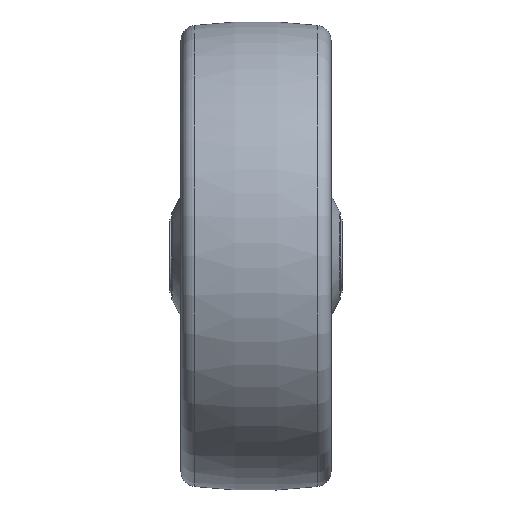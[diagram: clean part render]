
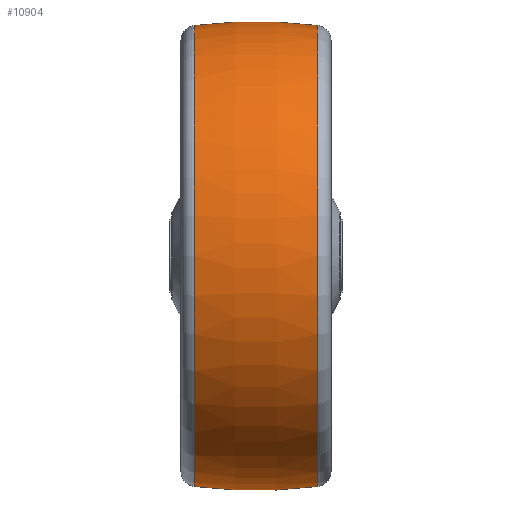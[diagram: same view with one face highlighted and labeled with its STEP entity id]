
A CAD part, top view. The second image highlights one B-rep face of the part: STEP entity #10904.
In plain terms, the highlighted toroidal (fillet/blend) face has major radius 67.5 mm and minor radius 130 mm.
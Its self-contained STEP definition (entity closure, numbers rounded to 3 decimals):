
#883 = EDGE_CURVE ( 'NONE', #20929, #13208, #10360, .T. ) ;
#1847 = DIRECTION ( 'NONE',  ( -1., 0., 0. ) ) ;
#3524 = CARTESIAN_POINT ( 'NONE',  ( 16.508, 0., 0. ) ) ;
#3607 = CARTESIAN_POINT ( 'NONE',  ( 16.508, -61.448, 0. ) ) ;
#3689 = CARTESIAN_POINT ( 'NONE',  ( 0., 0., 0. ) ) ;
#4414 = EDGE_CURVE ( 'NONE', #21205, #6673, #20030, .T. ) ;
#5148 = DIRECTION ( 'NONE',  ( 0.127, 0.992, 0. ) ) ;
#5726 = AXIS2_PLACEMENT_3D ( 'NONE', #25178, #12627, #20715 ) ;
#5904 = DIRECTION ( 'NONE',  ( -1., 0., 0. ) ) ;
#6673 = VERTEX_POINT ( 'NONE', #14055 ) ;
#8771 = FACE_OUTER_BOUND ( 'NONE', #24240, .T. ) ;
#8979 = ORIENTED_EDGE ( 'NONE', *, *, #4414, .F. ) ;
#9561 = ORIENTED_EDGE ( 'NONE', *, *, #26856, .T. ) ;
#9944 = DIRECTION ( 'NONE',  ( 0., -1., 0. ) ) ;
#10360 = CIRCLE ( 'NONE', #27072, 130. ) ;
#10904 = ADVANCED_FACE ( 'NONE', ( #8771 ), #11754, .T. ) ;
#11754 = TOROIDAL_SURFACE ( 'NONE', #20915, -67.5, 130. ) ;
#12627 = DIRECTION ( 'NONE',  ( -1., 0., 0. ) ) ;
#13208 = VERTEX_POINT ( 'NONE', #21419 ) ;
#13732 = CIRCLE ( 'NONE', #26854, 61.448 ) ;
#14055 = CARTESIAN_POINT ( 'NONE',  ( -16.508, -61.448, 0. ) ) ;
#14273 = DIRECTION ( 'NONE',  ( 0., -1., 0. ) ) ;
#15023 = CARTESIAN_POINT ( 'NONE',  ( 16.508, 61.448, 0. ) ) ;
#15383 = ORIENTED_EDGE ( 'NONE', *, *, #883, .T. ) ;
#15659 = CARTESIAN_POINT ( 'NONE',  ( 0., -67.5, 0. ) ) ;
#16292 = DIRECTION ( 'NONE',  ( 0., 0., -1. ) ) ;
#17322 = CIRCLE ( 'NONE', #5726, 61.448 ) ;
#20030 = CIRCLE ( 'NONE', #21652, 130. ) ;
#20340 = CARTESIAN_POINT ( 'NONE',  ( 0., 67.5, 0. ) ) ;
#20413 = ORIENTED_EDGE ( 'NONE', *, *, #27076, .F. ) ;
#20715 = DIRECTION ( 'NONE',  ( 0., -1., 0. ) ) ;
#20915 = AXIS2_PLACEMENT_3D ( 'NONE', #3689, #1847, #14273 ) ;
#20929 = VERTEX_POINT ( 'NONE', #15023 ) ;
#21205 = VERTEX_POINT ( 'NONE', #3607 ) ;
#21419 = CARTESIAN_POINT ( 'NONE',  ( -16.508, 61.448, 0. ) ) ;
#21652 = AXIS2_PLACEMENT_3D ( 'NONE', #20340, #16292, #26358 ) ;
#24240 = EDGE_LOOP ( 'NONE', ( #9561, #15383, #20413, #8979 ) ) ;
#25178 = CARTESIAN_POINT ( 'NONE',  ( -16.508, 0., 0. ) ) ;
#25904 = DIRECTION ( 'NONE',  ( 0., 0., 1. ) ) ;
#26358 = DIRECTION ( 'NONE',  ( 0.127, -0.992, 0. ) ) ;
#26854 = AXIS2_PLACEMENT_3D ( 'NONE', #3524, #5904, #9944 ) ;
#26856 = EDGE_CURVE ( 'NONE', #21205, #20929, #13732, .T. ) ;
#27072 = AXIS2_PLACEMENT_3D ( 'NONE', #15659, #25904, #5148 ) ;
#27076 = EDGE_CURVE ( 'NONE', #6673, #13208, #17322, .T. ) ;
